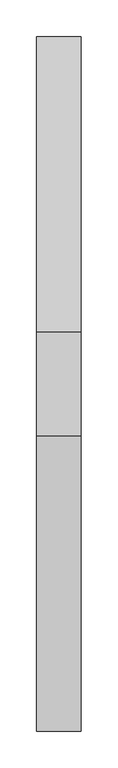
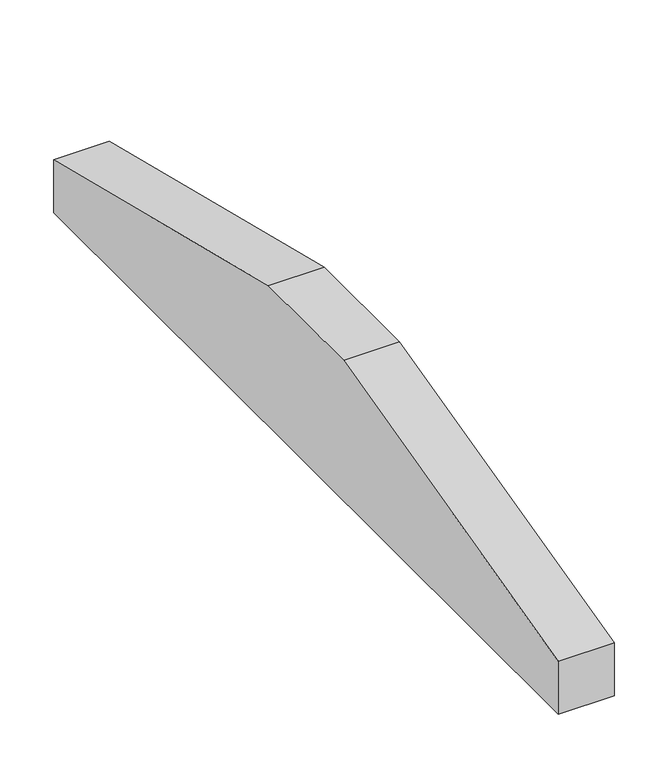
"""IFC4 building model written with IfcOpenShell, lengths in millimetres: proxy geometry, Modelos genéricos 173 : Modelos genéricos 144."""

from ifc_helpers import new_model, si_unit, frame, origin, place, context, project, spatial, polyline, outline, extrude, source, transform, mapped, element, save


def generic_models_3a9fed07(model_context):
    return source(origin(), model_context, "Body", "SweptSolid", [
        extrude(outline(polyline([(2018.6238165, 4209.7515316), (2418.6238165, 4110.0203305), (2418.6238165, 4049.7515316), (1478.6238165, 4049.7515316), (1478.6238165, 4110.0203305), (1878.6238165, 4209.7515316), (2018.6238165, 4209.7515316)])), frame((69933.4472467, 0.0, 0.0), z_axis=(1.0, 0.0, 0.0), x_axis=(0.0, 1.0, 0.0)), (0.0, 0.0, 1.0), 60.0),
    ])


if __name__ == "__main__":
    model = new_model("IFC4")
    model_context = context("Model", 3, world=origin())
    ifc_project = project(units=[si_unit("LENGTHUNIT", "METRE", prefix="MILLI")], contexts=[model_context])
    site = spatial("IfcSite", under=ifc_project)
    building = spatial("IfcBuilding", under=site)
    placement = place(None, origin())
    generic_models_shape = generic_models_3a9fed07(model_context)
    element("IfcBuildingElementProxy", 1, Name="Modelos genéricos 173 : Modelos genéricos 144", ObjectType="Modelos genéricos 173 : Modelos genéricos 144", at=placement, inside=building, context=model_context, shape_type="MappedRepresentation", body=[
        mapped(generic_models_shape, transform((0.0, 0.0, 0.0), x_axis=(1.0, 0.0, 0.0), y_axis=(0.0, 1.0, 0.0), z_axis=(0.0, 0.0, 1.0))),
    ])
    save(model, "model.ifc")
